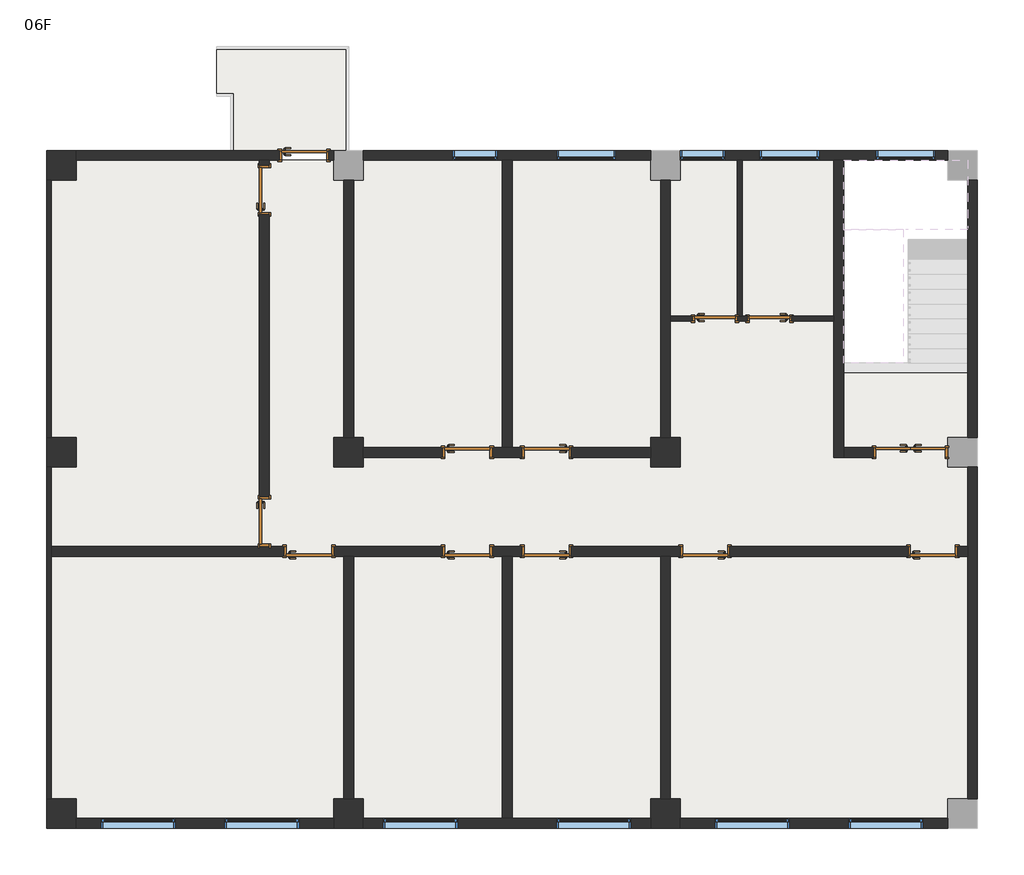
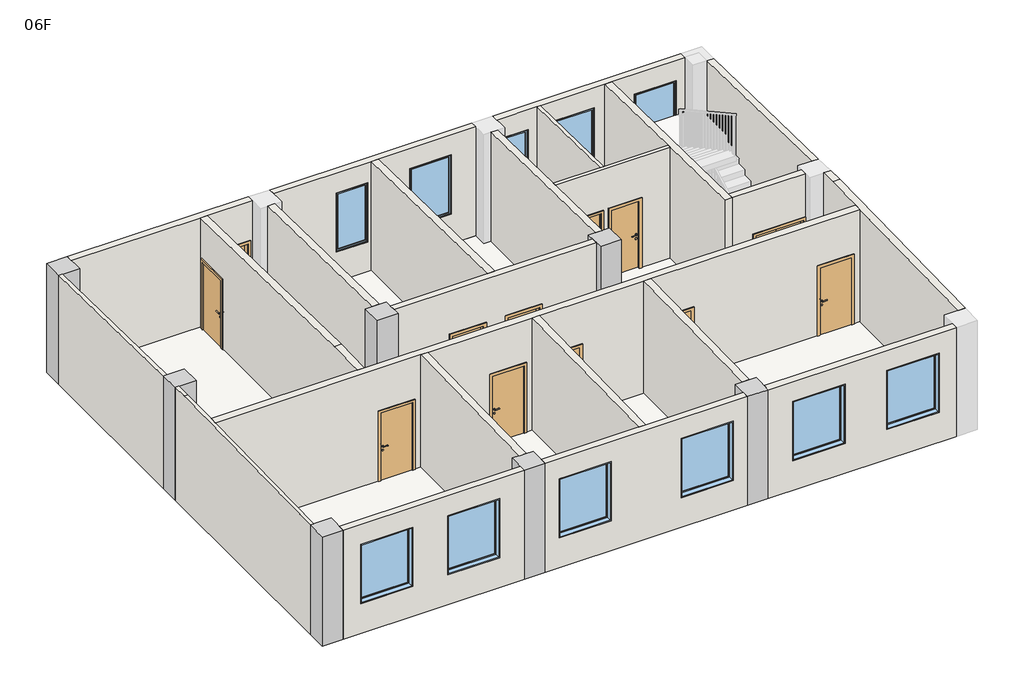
# One storey, part 1 of 2: 23 walls, 13 doors, 11 windows, 7 columns, 2 slabs.
"""IFC4 building model written with IfcOpenShell, lengths in millimetres."""

from ifc_helpers import new_model, si_unit, frame, origin, place, context, project, spatial, polyline, outline, extrude, faceted_brep, transform, mapped, element, save
from components import m2_692f9d9b, m3_ab7da2a0, m3_c9bb6752, m4_a67fd2dd, m4_12d08f6f, c2_16925ed6, c4_3407baf4, c6_982aaf11

model = new_model("IFC4")

# Units and contexts
model_context = context("Model", 3, world=origin())
ifc_project = project(units=[si_unit("LENGTHUNIT", "METRE", prefix="MILLI")], contexts=[model_context])

# Site, building, storey
site = spatial("IfcSite", under=ifc_project)
building = spatial("IfcBuilding", under=site)
storey = spatial("IfcBuildingStorey", under=building, Name="06F", Elevation=17100.0)

# Columns
placement = place(None, origin())
element("IfcColumn", 1, ObjectType="混凝土 - 矩形 - 柱 : 600 x 600mm", at=placement, inside=storey, context=model_context, shape_type="SweptSolid", body=[
    extrude(outline(polyline([(13600.0, 17100.0), (13000.0, 17100.0), (13000.0, 20411.980002), (13600.0, 20399.980002), (13600.0, 17100.0)])), frame((-100.0, 0.0, 0.0), z_axis=(1.0, 0.0, 0.0), x_axis=(0.0, 1.0, 0.0)), (0.0, 0.0, 1.0), 600.0),
])
element("IfcColumn", 2, ObjectType="混凝土 - 矩形 - 柱 : 600 x 600mm", at=placement, inside=storey, context=model_context, shape_type="SweptSolid", body=[
    extrude(outline(polyline([(7800.0, 17100.0), (7200.0, 17100.0), (7200.0, 20527.980002), (7800.0, 20515.980002), (7800.0, 17100.0)])), frame((-100.0, 0.0, 0.0), z_axis=(1.0, 0.0, 0.0), x_axis=(0.0, 1.0, 0.0)), (0.0, 0.0, 1.0), 600.0),
])
element("IfcColumn", 3, ObjectType="混凝土 - 矩形 - 柱 : 600 x 600mm", at=placement, inside=storey, context=model_context, shape_type="SweptSolid", body=[
    extrude(outline(polyline([(7800.0, 17100.0), (7200.0, 17100.0), (7200.0, 20527.980002), (7800.0, 20515.980002), (7800.0, 17100.0)])), frame((5700.0, 0.0, 0.0), z_axis=(1.0, 0.0, 0.0), x_axis=(0.0, 1.0, 0.0)), (0.0, 0.0, 1.0), 600.0),
])
element("IfcColumn", 4, ObjectType="混凝土 - 矩形 - 柱 : 600 x 600mm", at=placement, inside=storey, context=model_context, shape_type="SweptSolid", body=[
    extrude(outline(polyline([(7800.0, 17100.0), (7200.0, 17100.0), (7200.0, 20527.980002), (7800.0, 20515.980002), (7800.0, 17100.0)])), frame((12100.0, 0.0, 0.0), z_axis=(1.0, 0.0, 0.0), x_axis=(0.0, 1.0, 0.0)), (0.0, 0.0, 1.0), 600.0),
])
element("IfcColumn", 5, ObjectType="混凝土 - 矩形 - 柱 : 600 x 600mm", at=placement, inside=storey, context=model_context, shape_type="SweptSolid", body=[
    extrude(outline(polyline([(500.0, 17100.0), (-100.0, 17100.0), (-100.0, 20399.980002), (500.0, 20411.980002), (500.0, 17100.0)])), frame((-100.0, 0.0, 0.0), z_axis=(1.0, 0.0, 0.0), x_axis=(0.0, 1.0, 0.0)), (0.0, 0.0, 1.0), 600.0),
])
element("IfcColumn", 6, ObjectType="混凝土 - 矩形 - 柱 : 600 x 600mm", at=placement, inside=storey, context=model_context, shape_type="SweptSolid", body=[
    extrude(outline(polyline([(500.0, 17100.0), (-100.0, 17100.0), (-100.0, 20399.980002), (500.0, 20411.980002), (500.0, 17100.0)])), frame((5700.0, 0.0, 0.0), z_axis=(1.0, 0.0, 0.0), x_axis=(0.0, 1.0, 0.0)), (0.0, 0.0, 1.0), 600.0),
])
element("IfcColumn", 7, ObjectType="混凝土 - 矩形 - 柱 : 600 x 600mm", at=placement, inside=storey, context=model_context, shape_type="SweptSolid", body=[
    extrude(outline(polyline([(500.0, 17100.0), (-100.0, 17100.0), (-100.0, 20399.980002), (500.0, 20411.980002), (500.0, 17100.0)])), frame((12100.0, 0.0, 0.0), z_axis=(1.0, 0.0, 0.0), x_axis=(0.0, 1.0, 0.0)), (0.0, 0.0, 1.0), 600.0),
])

# Doors
m2_shape = m2_692f9d9b(model_context)
element("IfcDoor", 8, ObjectType="双面嵌板木门 1 : M2", at=placement, inside=storey, context=model_context, shape_type="MappedRepresentation", body=[
    mapped(m2_shape, transform((17350.0, 7500.0, 17100.0), x_axis=(1.0, 0.0, 0.0), y_axis=(0.0, 1.0, 0.0), z_axis=(0.0, 0.0, 1.0))),
])
m3_shape = m3_ab7da2a0(model_context)
element("IfcDoor", 9, ObjectType="单嵌板木门 1 : M3", at=placement, inside=storey, context=model_context, shape_type="MappedRepresentation", body=[
    mapped(m3_shape, transform((17800.0, 5500.0, 17100.0), x_axis=(1.0, 0.0, 0.0), y_axis=(0.0, 1.0, 0.0), z_axis=(0.0, 0.0, 1.0))),
])
element("IfcDoor", 10, ObjectType="单嵌板木门 1 : M3", at=placement, inside=storey, context=model_context, shape_type="MappedRepresentation", body=[
    mapped(m3_shape, transform((8400.0, 5500.0, 17100.0), x_axis=(1.0, 0.0, 0.0), y_axis=(0.0, 1.0, 0.0), z_axis=(0.0, 0.0, 1.0))),
])
element("IfcDoor", 11, ObjectType="单嵌板木门 1 : M3", at=placement, inside=storey, context=model_context, shape_type="MappedRepresentation", body=[
    mapped(m3_shape, transform((4300.0, 6100.0, 17100.0), x_axis=(0.0, -1.0, 0.0), y_axis=(1.0, 0.0, 0.0), z_axis=(0.0, 0.0, 1.0))),
])
element("IfcDoor", 12, ObjectType="单嵌板木门 1 : M3", at=placement, inside=storey, context=model_context, shape_type="MappedRepresentation", body=[
    mapped(m3_shape, transform((5200.0, 5500.0, 17100.0), x_axis=(1.0, 0.0, 0.0), y_axis=(0.0, 1.0, 0.0), z_axis=(0.0, 0.0, 1.0))),
])
element("IfcDoor", 13, ObjectType="单嵌板木门 1 : M3", at=placement, inside=storey, context=model_context, shape_type="MappedRepresentation", body=[
    mapped(m3_shape, transform((10000.0, 7500.0, 17100.0), x_axis=(-1.0, 0.0, 0.0), y_axis=(0.0, -1.0, 0.0), z_axis=(0.0, 0.0, 1.0))),
])
m3_2_shape = m3_c9bb6752(model_context)
element("IfcDoor", 14, ObjectType="单嵌板木门 1 : M3", at=placement, inside=storey, context=model_context, shape_type="MappedRepresentation", body=[
    mapped(m3_2_shape, transform((13200.0, 5500.0, 17100.0), x_axis=(-1.0, 0.0, 0.0), y_axis=(0.0, -1.0, 0.0), z_axis=(0.0, 0.0, 1.0))),
])
element("IfcDoor", 15, ObjectType="单嵌板木门 1 : M3", at=placement, inside=storey, context=model_context, shape_type="MappedRepresentation", body=[
    mapped(m3_2_shape, transform((10000.0, 5500.0, 17100.0), x_axis=(-1.0, 0.0, 0.0), y_axis=(0.0, -1.0, 0.0), z_axis=(0.0, 0.0, 1.0))),
])
element("IfcDoor", 16, ObjectType="单嵌板木门 1 : M3", at=placement, inside=storey, context=model_context, shape_type="MappedRepresentation", body=[
    mapped(m3_2_shape, transform((5100.0, 13500.0, 17100.0), x_axis=(1.0, 0.0, 0.0), y_axis=(0.0, 1.0, 0.0), z_axis=(0.0, 0.0, 1.0))),
])
element("IfcDoor", 17, ObjectType="单嵌板木门 1 : M3", at=placement, inside=storey, context=model_context, shape_type="MappedRepresentation", body=[
    mapped(m3_2_shape, transform((4300.0, 12800.0, 17100.0), x_axis=(0.0, 1.0, 0.0), y_axis=(-1.0, 0.0, 0.0), z_axis=(0.0, 0.0, 1.0))),
])
element("IfcDoor", 18, ObjectType="单嵌板木门 1 : M3", at=placement, inside=storey, context=model_context, shape_type="MappedRepresentation", body=[
    mapped(m3_2_shape, transform((8400.0, 7500.0, 17100.0), x_axis=(1.0, 0.0, 0.0), y_axis=(0.0, 1.0, 0.0), z_axis=(0.0, 0.0, 1.0))),
])
m4_shape = m4_a67fd2dd(model_context)
element("IfcDoor", 19, ObjectType="单嵌板木门 1 : M4", at=placement, inside=storey, context=model_context, shape_type="MappedRepresentation", body=[
    mapped(m4_shape, transform((13400.0, 10200.0, 17100.0), x_axis=(1.0, 0.0, 0.0), y_axis=(0.0, 1.0, 0.0), z_axis=(0.0, 0.0, 1.0))),
])
m4_2_shape = m4_12d08f6f(model_context)
element("IfcDoor", 20, ObjectType="单嵌板木门 1 : M4", at=placement, inside=storey, context=model_context, shape_type="MappedRepresentation", body=[
    mapped(m4_2_shape, transform((14500.0, 10200.0, 17100.0), x_axis=(-1.0, 0.0, 0.0), y_axis=(0.0, -1.0, 0.0), z_axis=(0.0, 0.0, 1.0))),
])

# Slabs
element("IfcSlab", 21, ObjectType="100mm厚钢筋混凝土", at=placement, inside=storey, context=model_context, shape_type="SweptSolid", body=[
    extrude(outline(polyline([(15800.0, 13400.0), (15800.0, 9100.0), (18500.0, 9100.0), (18500.0, 100.0), (0.0, 100.0), (0.0, 13400.0), (15800.0, 13400.0)])), frame((0.0, 0.0, 17000.0), z_axis=(0.0, 0.0, 1.0), x_axis=(1.0, 0.0, 0.0)), (0.0, 0.0, 1.0), 100.0),
])
element("IfcSlab", 22, ObjectType="常规 - 300mm", at=placement, inside=storey, context=model_context, shape_type="SweptSolid", body=[
    extrude(outline(polyline([(6000.0, 15699.6), (6000.0, 13600.0), (3620.0, 13600.0), (3620.0, 14700.0), (3340.0, 14700.0), (3340.0, 15699.6), (6000.0, 15699.6)])), frame((0.0, 0.0, 16935.0), z_axis=(0.0, 0.0, 1.0), x_axis=(1.0, 0.0, 0.0)), (0.0, 0.0, 1.0), 165.0),
])

# Walls
element("IfcWall", 23, ObjectType="200mm厚加气混凝土砌块", at=placement, inside=storey, context=model_context, shape_type="Brep", body=[
    faceted_brep([(5700.0, 13400.0, 17100.0), (5700.0, 13400.0, 20403.980002), (4400.0, 13400.0, 20403.980002), (4200.0, 13400.0, 20403.980002), (500.0, 13400.0, 20403.980002), (500.0, 13400.0, 17100.0), (4200.0, 13400.0, 17100.0), (4400.0, 13400.0, 17100.0), (4600.0, 13400.0, 17100.0), (4600.0, 13400.0, 19200.0), (5600.0, 13400.0, 19200.0), (5600.0, 13400.0, 17100.0), (5700.0, 13600.0, 20399.980002), (5700.0, 13600.0, 17100.0), (5600.0, 13600.0, 17100.0), (5600.0, 13600.0, 19200.0), (4600.0, 13600.0, 19200.0), (4600.0, 13600.0, 17100.0), (500.0, 13600.0, 17100.0), (500.0, 13600.0, 20399.980002)], [[[0, 1, 2, 3, 4, 5, 6, 7, 8, 9, 10, 11]], [[12, 13, 14, 15, 16, 17, 18, 19]], [[13, 0, 11, 14]], [[5, 18, 17, 8, 7, 6]], [[1, 0, 13, 12]], [[5, 4, 19, 18]], [[10, 15, 14, 11]], [[15, 10, 9, 16]], [[16, 9, 8, 17]], [[4, 3, 2, 1, 12, 19]]]),
])
element("IfcWall", 24, ObjectType="200mm厚加气混凝土砌块", at=placement, inside=storey, context=model_context, shape_type="Brep", body=[
    faceted_brep([(6300.0, 13400.0, 17100.0), (9100.0, 13400.0, 17100.0), (9300.0, 13400.0, 17100.0), (12100.0, 13400.0, 17100.0), (12100.0, 13400.0, 20403.980002), (9300.0, 13400.0, 20403.980002), (9100.0, 13400.0, 20403.980002), (6300.0, 13400.0, 20403.980002), (11400.0, 13400.0, 18000.0), (10200.0, 13400.0, 18000.0), (10200.0, 13400.0, 19800.0), (11400.0, 13400.0, 19800.0), (9000.0, 13400.0, 18000.0), (8100.0, 13400.0, 18000.0), (8100.0, 13400.0, 19800.0), (9000.0, 13400.0, 19800.0), (6300.0, 13600.0, 17100.0), (6300.0, 13600.0, 20399.980002), (12100.0, 13600.0, 20399.980002), (12100.0, 13600.0, 17100.0), (11400.0, 13600.0, 18000.0), (11400.0, 13600.0, 19800.0), (10200.0, 13600.0, 19800.0), (10200.0, 13600.0, 18000.0), (9000.0, 13600.0, 18000.0), (9000.0, 13600.0, 19800.0), (8100.0, 13600.0, 19800.0), (8100.0, 13600.0, 18000.0)], [[[0, 1, 2, 3, 4, 5, 6, 7], [8, 9, 10, 11], [12, 13, 14, 15]], [[16, 17, 18, 19], [20, 21, 22, 23], [24, 25, 26, 27]], [[3, 2, 1, 0, 16, 19]], [[4, 3, 19, 18]], [[0, 7, 17, 16]], [[21, 20, 8, 11]], [[22, 21, 11, 10]], [[23, 22, 10, 9]], [[20, 23, 9, 8]], [[25, 24, 12, 15]], [[26, 25, 15, 14]], [[27, 26, 14, 13]], [[24, 27, 13, 12]], [[7, 6, 5, 4, 18, 17]]]),
])
element("IfcWall", 25, ObjectType="200mm厚加气混凝土砌块", at=placement, inside=storey, context=model_context, shape_type="Brep", body=[
    faceted_brep([(13600.0, 13400.0, 18000.0), (12700.0, 13400.0, 18000.0), (12700.0, 13400.0, 17100.0), (13850.0, 13400.0, 17100.0), (13950.0, 13400.0, 17100.0), (15800.0, 13400.0, 17100.0), (16000.0, 13400.0, 17100.0), (18100.0, 13400.0, 17100.0), (18100.0, 13400.0, 20403.980002), (16000.0, 13400.0, 20403.980002), (15800.0, 13400.0, 20403.980002), (13950.0, 13400.0, 20403.980002), (13850.0, 13400.0, 20403.980002), (12700.0, 13400.0, 20403.980002), (12700.0, 13400.0, 19800.0), (13600.0, 13400.0, 19800.0), (17850.0, 13400.0, 18000.0), (16650.0, 13400.0, 18000.0), (16650.0, 13400.0, 19800.0), (17850.0, 13400.0, 19800.0), (15500.0, 13400.0, 18000.0), (14300.0, 13400.0, 18000.0), (14300.0, 13400.0, 19800.0), (15500.0, 13400.0, 19800.0), (12700.0, 13600.0, 17100.0), (12700.0, 13600.0, 18000.0), (13600.0, 13600.0, 18000.0), (13600.0, 13600.0, 19800.0), (12700.0, 13600.0, 19800.0), (12700.0, 13600.0, 20399.980002), (18100.0, 13600.0, 20399.980002), (18100.0, 13600.0, 17100.0), (17850.0, 13600.0, 18000.0), (17850.0, 13600.0, 19800.0), (16650.0, 13600.0, 19800.0), (16650.0, 13600.0, 18000.0), (15500.0, 13600.0, 18000.0), (15500.0, 13600.0, 19800.0), (14300.0, 13600.0, 19800.0), (14300.0, 13600.0, 18000.0)], [[[0, 1, 2, 3, 4, 5, 6, 7, 8, 9, 10, 11, 12, 13, 14, 15], [16, 17, 18, 19], [20, 21, 22, 23]], [[24, 25, 26, 27, 28, 29, 30, 31], [32, 33, 34, 35], [36, 37, 38, 39]], [[7, 6, 5, 4, 3, 2, 24, 31]], [[8, 7, 31, 30]], [[14, 13, 29, 28]], [[2, 1, 25, 24]], [[33, 32, 16, 19]], [[34, 33, 19, 18]], [[35, 34, 18, 17]], [[32, 35, 17, 16]], [[37, 36, 20, 23]], [[38, 37, 23, 22]], [[39, 38, 22, 21]], [[36, 39, 21, 20]], [[27, 26, 0, 15]], [[28, 27, 15, 14]], [[26, 25, 1, 0]], [[13, 12, 11, 10, 9, 8, 30, 29]]]),
])
element("IfcWall", 26, ObjectType="200mm厚加气混凝土砌块", at=placement, inside=storey, context=model_context, shape_type="SweptSolid", body=[
    extrude(outline(polyline([(13000.0, 17100.0), (7800.0, 17100.0), (7800.0, 20515.980002), (13000.0, 20411.980002), (13000.0, 17100.0)])), frame((18500.0, 0.0, 0.0), z_axis=(1.0, 0.0, 0.0), x_axis=(0.0, 1.0, 0.0)), (0.0, 0.0, 1.0), 200.0),
])
element("IfcWall", 27, ObjectType="200mm厚加气混凝土砌块", at=placement, inside=storey, context=model_context, shape_type="Brep", body=[
    faceted_brep([(18500.0, 7200.0, 17100.0), (18500.0, 5600.0, 17100.0), (18500.0, 5400.0, 17100.0), (18500.0, 500.0, 17100.0), (18500.0, 500.0, 20411.980002), (18500.0, 5400.0, 20509.980002), (18500.0, 5600.0, 20513.980002), (18500.0, 6750.0, 20536.980002), (18500.0, 7200.0, 20527.980002), (18700.0, 7200.0, 17100.0), (18700.0, 7200.0, 20527.980002), (18700.0, 6750.0, 20536.980002), (18700.0, 500.0, 20411.980002), (18700.0, 500.0, 17100.0)], [[[0, 1, 2, 3, 4, 5, 6, 7, 8]], [[9, 10, 11, 12, 13]], [[3, 2, 1, 0, 9, 13]], [[4, 3, 13, 12]], [[0, 8, 10, 9]], [[8, 7, 11, 10]], [[7, 6, 5, 4, 12, 11]]]),
])
element("IfcWall", 28, ObjectType="200mm厚加气混凝土砌块", at=placement, inside=storey, context=model_context, shape_type="Brep", body=[
    faceted_brep([(18100.0, 100.0, 17100.0), (12700.0, 100.0, 17100.0), (12700.0, 100.0, 20403.980002), (18100.0, 100.0, 20403.980002), (16100.0, 100.0, 18000.0), (17600.0, 100.0, 18000.0), (17600.0, 100.0, 19800.0), (16100.0, 100.0, 19800.0), (13400.0, 100.0, 18000.0), (14900.0, 100.0, 18000.0), (14900.0, 100.0, 19800.0), (13400.0, 100.0, 19800.0), (18100.0, -100.0, 17100.0), (18100.0, -100.0, 20399.980002), (12700.0, -100.0, 20399.980002), (12700.0, -100.0, 17100.0), (16100.0, -100.0, 18000.0), (16100.0, -100.0, 19800.0), (17600.0, -100.0, 19800.0), (17600.0, -100.0, 18000.0), (13400.0, -100.0, 18000.0), (13400.0, -100.0, 19800.0), (14900.0, -100.0, 19800.0), (14900.0, -100.0, 18000.0)], [[[0, 1, 2, 3], [4, 5, 6, 7], [8, 9, 10, 11]], [[12, 13, 14, 15], [16, 17, 18, 19], [20, 21, 22, 23]], [[1, 0, 12, 15]], [[2, 1, 15, 14]], [[0, 3, 13, 12]], [[17, 16, 4, 7]], [[18, 17, 7, 6]], [[19, 18, 6, 5]], [[16, 19, 5, 4]], [[21, 20, 8, 11]], [[22, 21, 11, 10]], [[23, 22, 10, 9]], [[20, 23, 9, 8]], [[3, 2, 14, 13]]]),
])
element("IfcWall", 29, ObjectType="200mm厚加气混凝土砌块", at=placement, inside=storey, context=model_context, shape_type="Brep", body=[
    faceted_brep([(12100.0, 100.0, 17100.0), (9300.0, 100.0, 17100.0), (9100.0, 100.0, 17100.0), (6300.0, 100.0, 17100.0), (6300.0, 100.0, 20403.980002), (9100.0, 100.0, 20403.980002), (9300.0, 100.0, 20403.980002), (12100.0, 100.0, 20403.980002), (6700.0, 100.0, 18000.0), (8200.0, 100.0, 18000.0), (8200.0, 100.0, 19800.0), (6700.0, 100.0, 19800.0), (10200.0, 100.0, 18000.0), (11700.0, 100.0, 18000.0), (11700.0, 100.0, 19800.0), (10200.0, 100.0, 19800.0), (12100.0, -100.0, 17100.0), (12100.0, -100.0, 20399.980002), (6300.0, -100.0, 20399.980002), (6300.0, -100.0, 17100.0), (6700.0, -100.0, 18000.0), (6700.0, -100.0, 19800.0), (8200.0, -100.0, 19800.0), (8200.0, -100.0, 18000.0), (10200.0, -100.0, 18000.0), (10200.0, -100.0, 19800.0), (11700.0, -100.0, 19800.0), (11700.0, -100.0, 18000.0)], [[[0, 1, 2, 3, 4, 5, 6, 7], [8, 9, 10, 11], [12, 13, 14, 15]], [[16, 17, 18, 19], [20, 21, 22, 23], [24, 25, 26, 27]], [[3, 2, 1, 0, 16, 19]], [[4, 3, 19, 18]], [[0, 7, 17, 16]], [[21, 20, 8, 11]], [[22, 21, 11, 10]], [[23, 22, 10, 9]], [[20, 23, 9, 8]], [[25, 24, 12, 15]], [[26, 25, 15, 14]], [[27, 26, 14, 13]], [[24, 27, 13, 12]], [[7, 6, 5, 4, 18, 17]]]),
])
element("IfcWall", 30, ObjectType="200mm厚加气混凝土砌块", at=placement, inside=storey, context=model_context, shape_type="Brep", body=[
    faceted_brep([(5700.0, 100.0, 17100.0), (500.0, 100.0, 17100.0), (500.0, 100.0, 20403.980002), (5700.0, 100.0, 20403.980002), (1000.0, 100.0, 18000.0), (2500.0, 100.0, 18000.0), (2500.0, 100.0, 19800.0), (1000.0, 100.0, 19800.0), (3500.0, 100.0, 18000.0), (5000.0, 100.0, 18000.0), (5000.0, 100.0, 19800.0), (3500.0, 100.0, 19800.0), (5700.0, -100.0, 17100.0), (5700.0, -100.0, 20399.980002), (500.0, -100.0, 20399.980002), (500.0, -100.0, 17100.0), (1000.0, -100.0, 18000.0), (1000.0, -100.0, 19800.0), (2500.0, -100.0, 19800.0), (2500.0, -100.0, 18000.0), (3500.0, -100.0, 18000.0), (3500.0, -100.0, 19800.0), (5000.0, -100.0, 19800.0), (5000.0, -100.0, 18000.0)], [[[0, 1, 2, 3], [4, 5, 6, 7], [8, 9, 10, 11]], [[12, 13, 14, 15], [16, 17, 18, 19], [20, 21, 22, 23]], [[1, 0, 12, 15]], [[2, 1, 15, 14]], [[0, 3, 13, 12]], [[17, 16, 4, 7]], [[18, 17, 7, 6]], [[19, 18, 6, 5]], [[16, 19, 5, 4]], [[21, 20, 8, 11]], [[22, 21, 11, 10]], [[23, 22, 10, 9]], [[20, 23, 9, 8]], [[3, 2, 14, 13]]]),
])
element("IfcWall", 31, ObjectType="100mm厚加气混凝土砌块", at=placement, inside=storey, context=model_context, shape_type="Brep", body=[
    faceted_brep([(0.0, 500.0, 17100.0), (0.0, 5400.0, 17100.0), (0.0, 5600.0, 17100.0), (0.0, 7200.0, 17100.0), (0.0, 7200.0, 20527.980002), (0.0, 6750.0, 20536.980002), (0.0, 5600.0, 20513.980002), (0.0, 5400.0, 20509.980002), (0.0, 500.0, 20411.980002), (-100.0, 500.0, 17100.0), (-100.0, 500.0, 20411.980002), (-100.0, 6750.0, 20536.980002), (-100.0, 7200.0, 20527.980002), (-100.0, 7200.0, 17100.0)], [[[0, 1, 2, 3, 4, 5, 6, 7, 8]], [[9, 10, 11, 12, 13]], [[3, 2, 1, 0, 9, 13]], [[4, 3, 13, 12]], [[0, 8, 10, 9]], [[8, 7, 6, 5, 11, 10]], [[5, 4, 12, 11]]]),
])
element("IfcWall", 32, ObjectType="100mm厚加气混凝土砌块", at=placement, inside=storey, context=model_context, shape_type="SweptSolid", body=[
    extrude(outline(polyline([(7800.0, 17100.0), (7800.0, 20515.980002), (13000.0, 20411.980002), (13000.0, 17100.0), (7800.0, 17100.0)])), frame((-100.0, 0.0, 0.0), z_axis=(1.0, 0.0, 0.0), x_axis=(0.0, 1.0, 0.0)), (0.0, 0.0, 1.0), 100.0),
])
element("IfcWall", 33, ObjectType="200mm厚加气混凝土砌块", at=placement, inside=storey, context=model_context, shape_type="SweptSolid", body=[
    extrude(outline(polyline([(13000.0, 17100.0), (7800.0, 17100.0), (7800.0, 20515.980002), (13000.0, 20411.980002), (13000.0, 17100.0)])), frame((5900.0, 0.0, 0.0), z_axis=(1.0, 0.0, 0.0), x_axis=(0.0, 1.0, 0.0)), (0.0, 0.0, 1.0), 200.0),
])
element("IfcWall", 34, ObjectType="200mm厚加气混凝土砌块", at=placement, inside=storey, context=model_context, shape_type="SweptSolid", body=[
    extrude(outline(polyline([(5400.0, 17100.0), (500.0, 17100.0), (500.0, 20411.980002), (5400.0, 20509.980002), (5400.0, 17100.0)])), frame((5900.0, 0.0, 0.0), z_axis=(1.0, 0.0, 0.0), x_axis=(0.0, 1.0, 0.0)), (0.0, 0.0, 1.0), 200.0),
])
element("IfcWall", 35, ObjectType="200mm厚加气混凝土砌块", at=placement, inside=storey, context=model_context, shape_type="Brep", body=[
    faceted_brep([(18500.0, 5400.0, 17100.0), (18500.0, 5400.0, 20509.980002), (12500.0, 5400.0, 20509.980002), (12300.0, 5400.0, 20509.980002), (9300.0, 5400.0, 20509.980002), (9100.0, 5400.0, 20509.980002), (6100.0, 5400.0, 20509.980002), (5900.0, 5400.0, 20509.980002), (0.0, 5400.0, 20509.980002), (0.0, 5400.0, 17100.0), (4700.0, 5400.0, 17100.0), (4700.0, 5400.0, 19200.0), (5700.0, 5400.0, 19200.0), (5700.0, 5400.0, 17100.0), (5900.0, 5400.0, 17100.0), (6100.0, 5400.0, 17100.0), (7900.0, 5400.0, 17100.0), (7900.0, 5400.0, 19200.0), (8900.0, 5400.0, 19200.0), (8900.0, 5400.0, 17100.0), (9100.0, 5400.0, 17100.0), (9300.0, 5400.0, 17100.0), (9500.0, 5400.0, 17100.0), (9500.0, 5400.0, 19200.0), (10500.0, 5400.0, 19200.0), (10500.0, 5400.0, 17100.0), (12300.0, 5400.0, 17100.0), (12500.0, 5400.0, 17100.0), (12700.0, 5400.0, 17100.0), (12700.0, 5400.0, 19200.0), (13700.0, 5400.0, 19200.0), (13700.0, 5400.0, 17100.0), (17300.0, 5400.0, 17100.0), (17300.0, 5400.0, 19200.0), (18300.0, 5400.0, 19200.0), (18300.0, 5400.0, 17100.0), (18500.0, 5600.0, 20513.980002), (18500.0, 5600.0, 17100.0), (18300.0, 5600.0, 17100.0), (18300.0, 5600.0, 19200.0), (17300.0, 5600.0, 19200.0), (17300.0, 5600.0, 17100.0), (13700.0, 5600.0, 17100.0), (13700.0, 5600.0, 19200.0), (12700.0, 5600.0, 19200.0), (12700.0, 5600.0, 17100.0), (10500.0, 5600.0, 17100.0), (10500.0, 5600.0, 19200.0), (9500.0, 5600.0, 19200.0), (9500.0, 5600.0, 17100.0), (8900.0, 5600.0, 17100.0), (8900.0, 5600.0, 19200.0), (7900.0, 5600.0, 19200.0), (7900.0, 5600.0, 17100.0), (5700.0, 5600.0, 17100.0), (5700.0, 5600.0, 19200.0), (4700.0, 5600.0, 19200.0), (4700.0, 5600.0, 17100.0), (4400.0, 5600.0, 17100.0), (4200.0, 5600.0, 17100.0), (0.0, 5600.0, 17100.0), (0.0, 5600.0, 20513.980002), (4200.0, 5600.0, 20513.980002), (4400.0, 5600.0, 20513.980002)], [[[0, 1, 2, 3, 4, 5, 6, 7, 8, 9, 10, 11, 12, 13, 14, 15, 16, 17, 18, 19, 20, 21, 22, 23, 24, 25, 26, 27, 28, 29, 30, 31, 32, 33, 34, 35]], [[36, 37, 38, 39, 40, 41, 42, 43, 44, 45, 46, 47, 48, 49, 50, 51, 52, 53, 54, 55, 56, 57, 58, 59, 60, 61, 62, 63]], [[37, 0, 35, 38]], [[9, 60, 59, 58, 57, 10]], [[13, 54, 53, 16, 15, 14]], [[19, 50, 49, 22, 21, 20]], [[25, 46, 45, 28, 27, 26]], [[41, 32, 31, 42]], [[1, 0, 37, 36]], [[9, 8, 61, 60]], [[12, 55, 54, 13]], [[55, 12, 11, 56]], [[56, 11, 10, 57]], [[18, 51, 50, 19]], [[51, 18, 17, 52]], [[52, 17, 16, 53]], [[48, 23, 22, 49]], [[23, 48, 47, 24]], [[24, 47, 46, 25]], [[34, 39, 38, 35]], [[39, 34, 33, 40]], [[40, 33, 32, 41]], [[44, 29, 28, 45]], [[29, 44, 43, 30]], [[30, 43, 42, 31]], [[8, 7, 6, 5, 4, 3, 2, 1, 36, 63, 62, 61]]]),
])
element("IfcWall", 36, ObjectType="200mm厚加气混凝土砌块", at=placement, inside=storey, context=model_context, shape_type="SweptSolid", body=[
    extrude(outline(polyline([(5400.0, 17100.0), (500.0, 17100.0), (500.0, 20411.980002), (5400.0, 20509.980002), (5400.0, 17100.0)])), frame((12300.0, 0.0, 0.0), z_axis=(1.0, 0.0, 0.0), x_axis=(0.0, 1.0, 0.0)), (0.0, 0.0, 1.0), 200.0),
])
element("IfcWall", 37, ObjectType="200mm厚加气混凝土砌块", at=placement, inside=storey, context=model_context, shape_type="Brep", body=[
    faceted_brep([(12300.0, 13000.0, 17100.0), (12300.0, 7800.0, 17100.0), (12300.0, 7800.0, 20515.980002), (12300.0, 13000.0, 20411.980002), (12500.0, 13000.0, 17100.0), (12500.0, 13000.0, 20411.980002), (12500.0, 10250.0, 20466.980002), (12500.0, 10150.0, 20468.980002), (12500.0, 7800.0, 20515.980002), (12500.0, 7800.0, 17100.0), (12500.0, 10150.0, 17100.0), (12500.0, 10250.0, 17100.0)], [[[0, 1, 2, 3]], [[4, 5, 6, 7, 8, 9, 10, 11]], [[1, 0, 4, 11, 10, 9]], [[2, 1, 9, 8]], [[0, 3, 5, 4]], [[3, 2, 8, 7, 6, 5]]]),
])
element("IfcWall", 38, ObjectType="200mm厚加气混凝土砌块", at=placement, inside=storey, context=model_context, shape_type="Brep", body=[
    faceted_brep([(15800.0, 13400.0, 17100.0), (15800.0, 10250.0, 17100.0), (15800.0, 10150.0, 17100.0), (15800.0, 7400.0, 17100.0), (15800.0, 7400.0, 20523.980002), (15800.0, 10150.0, 20468.980002), (15800.0, 10250.0, 20466.980002), (15800.0, 13400.0, 20403.980002), (16000.0, 13400.0, 17100.0), (16000.0, 13400.0, 20403.980002), (16000.0, 7600.0, 20519.980002), (16000.0, 7400.0, 20523.980002), (16000.0, 7400.0, 17100.0), (16000.0, 7600.0, 17100.0)], [[[0, 1, 2, 3, 4, 5, 6, 7]], [[8, 9, 10, 11, 12, 13]], [[3, 2, 1, 0, 8, 13, 12]], [[0, 7, 9, 8]], [[4, 3, 12, 11]], [[7, 6, 5, 4, 11, 10, 9]]]),
])
element("IfcWall", 39, ObjectType="200mm厚加气混凝土砌块", at=placement, inside=storey, context=model_context, shape_type="Brep", body=[
    faceted_brep([(16000.0, 7400.0, 20523.980002), (16000.0, 7400.0, 17100.0), (16600.0, 7400.0, 17100.0), (16600.0, 7400.0, 19200.0), (18100.0, 7400.0, 19200.0), (18100.0, 7400.0, 20523.980002), (16000.0, 7600.0, 17100.0), (16000.0, 7600.0, 20519.980002), (18100.0, 7600.0, 20519.980002), (18100.0, 7600.0, 19200.0), (16600.0, 7600.0, 19200.0), (16600.0, 7600.0, 17100.0)], [[[0, 1, 2, 3, 4, 5]], [[6, 7, 8, 9, 10, 11]], [[1, 6, 11, 2]], [[8, 5, 4, 9]], [[1, 0, 7, 6]], [[3, 10, 9, 4]], [[10, 3, 2, 11]], [[0, 5, 8, 7]]]),
])
element("IfcWall", 40, ObjectType="100mm厚加气混凝土砌块", at=placement, inside=storey, context=model_context, shape_type="Brep", body=[
    faceted_brep([(12500.0, 10150.0, 20468.980002), (12500.0, 10150.0, 17100.0), (12950.0, 10150.0, 17100.0), (12950.0, 10150.0, 19200.0), (13850.0, 10150.0, 19200.0), (13850.0, 10150.0, 17100.0), (14050.0, 10150.0, 17100.0), (14050.0, 10150.0, 19200.0), (14950.0, 10150.0, 19200.0), (14950.0, 10150.0, 17100.0), (15800.0, 10150.0, 17100.0), (15800.0, 10150.0, 20468.980002), (12500.0, 10250.0, 17100.0), (12500.0, 10250.0, 20466.980002), (13850.0, 10250.0, 20466.980002), (13950.0, 10250.0, 20466.980002), (15800.0, 10250.0, 20466.980002), (15800.0, 10250.0, 17100.0), (14950.0, 10250.0, 17100.0), (14950.0, 10250.0, 19200.0), (14050.0, 10250.0, 19200.0), (14050.0, 10250.0, 17100.0), (13950.0, 10250.0, 17100.0), (13850.0, 10250.0, 17100.0), (13850.0, 10250.0, 19200.0), (12950.0, 10250.0, 19200.0), (12950.0, 10250.0, 17100.0)], [[[0, 1, 2, 3, 4, 5, 6, 7, 8, 9, 10, 11]], [[12, 13, 14, 15, 16, 17, 18, 19, 20, 21, 22, 23, 24, 25, 26]], [[1, 12, 26, 2]], [[17, 10, 9, 18]], [[21, 6, 5, 23, 22]], [[1, 0, 13, 12]], [[11, 10, 17, 16]], [[20, 7, 6, 21]], [[7, 20, 19, 8]], [[8, 19, 18, 9]], [[4, 24, 23, 5]], [[24, 4, 3, 25]], [[25, 3, 2, 26]], [[0, 11, 16, 15, 14, 13]]]),
])
element("IfcWall", 41, ObjectType="100mm厚加气混凝土砌块", at=placement, inside=storey, context=model_context, shape_type="Brep", body=[
    faceted_brep([(13850.0, 13400.0, 17100.0), (13850.0, 10250.0, 17100.0), (13850.0, 10250.0, 19200.0), (13850.0, 10250.0, 20466.980002), (13850.0, 13400.0, 20403.980002), (13950.0, 13400.0, 17100.0), (13950.0, 13400.0, 20403.980002), (13950.0, 10250.0, 20466.980002), (13950.0, 10250.0, 17100.0)], [[[0, 1, 2, 3, 4]], [[5, 6, 7, 8]], [[1, 0, 5, 8]], [[0, 4, 6, 5]], [[3, 2, 1, 8, 7]], [[4, 3, 7, 6]]]),
])
element("IfcWall", 42, ObjectType="200mm厚加气混凝土砌块", at=placement, inside=storey, context=model_context, shape_type="SweptSolid", body=[
    extrude(outline(polyline([(13400.0, 20403.980002), (13400.0, 17100.0), (13300.0, 17100.0), (13300.0, 19200.0), (12300.0, 19200.0), (12300.0, 17100.0), (6600.0, 17100.0), (6600.0, 19200.0), (5600.0, 19200.0), (5600.0, 20513.980002), (6750.0, 20536.980002), (13400.0, 20403.980002)])), frame((4200.0, 0.0, 0.0), z_axis=(1.0, 0.0, 0.0), x_axis=(0.0, 1.0, 0.0)), (0.0, 0.0, 1.0), 200.0),
])
element("IfcWall", 43, ObjectType="200mm厚加气混凝土砌块", at=placement, inside=storey, context=model_context, shape_type="SweptSolid", body=[
    extrude(outline(polyline([(5400.0, 17100.0), (100.0, 17100.0), (100.0, 20403.980002), (5400.0, 20509.980002), (5400.0, 17100.0)])), frame((9100.0, 0.0, 0.0), z_axis=(1.0, 0.0, 0.0), x_axis=(0.0, 1.0, 0.0)), (0.0, 0.0, 1.0), 200.0),
])
element("IfcWall", 44, ObjectType="200mm厚加气混凝土砌块", at=placement, inside=storey, context=model_context, shape_type="Brep", body=[
    faceted_brep([(12100.0, 7400.0, 17100.0), (12100.0, 7400.0, 20523.980002), (6300.0, 7400.0, 20523.980002), (6300.0, 7400.0, 17100.0), (7900.0, 7400.0, 17100.0), (7900.0, 7400.0, 19200.0), (8900.0, 7400.0, 19200.0), (8900.0, 7400.0, 17100.0), (9500.0, 7400.0, 17100.0), (9500.0, 7400.0, 19200.0), (10500.0, 7400.0, 19200.0), (10500.0, 7400.0, 17100.0), (12100.0, 7600.0, 20519.980002), (12100.0, 7600.0, 17100.0), (10500.0, 7600.0, 17100.0), (10500.0, 7600.0, 19200.0), (9500.0, 7600.0, 19200.0), (9500.0, 7600.0, 17100.0), (9300.0, 7600.0, 17100.0), (9100.0, 7600.0, 17100.0), (8900.0, 7600.0, 17100.0), (8900.0, 7600.0, 19200.0), (7900.0, 7600.0, 19200.0), (7900.0, 7600.0, 17100.0), (6300.0, 7600.0, 17100.0), (6300.0, 7600.0, 20519.980002), (9100.0, 7600.0, 20519.980002), (9300.0, 7600.0, 20519.980002)], [[[0, 1, 2, 3, 4, 5, 6, 7, 8, 9, 10, 11]], [[12, 13, 14, 15, 16, 17, 18, 19, 20, 21, 22, 23, 24, 25, 26, 27]], [[13, 0, 11, 14]], [[3, 24, 23, 4]], [[17, 8, 7, 20, 19, 18]], [[1, 0, 13, 12]], [[3, 2, 25, 24]], [[16, 9, 8, 17]], [[9, 16, 15, 10]], [[10, 15, 14, 11]], [[6, 21, 20, 7]], [[21, 6, 5, 22]], [[22, 5, 4, 23]], [[2, 1, 12, 27, 26, 25]]]),
])
element("IfcWall", 45, ObjectType="200mm厚加气混凝土砌块", at=placement, inside=storey, context=model_context, shape_type="SweptSolid", body=[
    extrude(outline(polyline([(7600.0, 17100.0), (7600.0, 20519.980002), (13400.0, 20403.980002), (13400.0, 17100.0), (7600.0, 17100.0)])), frame((9100.0, 0.0, 0.0), z_axis=(1.0, 0.0, 0.0), x_axis=(0.0, 1.0, 0.0)), (0.0, 0.0, 1.0), 200.0),
])

# Windows
c2_shape = c2_16925ed6(model_context)
element("IfcWindow", 46, ObjectType="固定 : C2", at=placement, inside=storey, context=model_context, shape_type="MappedRepresentation", body=[
    mapped(c2_shape, transform((10950.0, -13.0, 17100.0), x_axis=(1.0, 0.0, 0.0), y_axis=(0.0, 1.0, 0.0), z_axis=(0.0, 0.0, 1.0))),
])
element("IfcWindow", 47, ObjectType="固定 : C2", at=placement, inside=storey, context=model_context, shape_type="MappedRepresentation", body=[
    mapped(c2_shape, transform((7450.0, -13.0, 17100.0), x_axis=(1.0, 0.0, 0.0), y_axis=(0.0, 1.0, 0.0), z_axis=(0.0, 0.0, 1.0))),
])
element("IfcWindow", 48, ObjectType="固定 : C2", at=placement, inside=storey, context=model_context, shape_type="MappedRepresentation", body=[
    mapped(c2_shape, transform((4250.0, -13.0, 17100.0), x_axis=(1.0, 0.0, 0.0), y_axis=(0.0, 1.0, 0.0), z_axis=(0.0, 0.0, 1.0))),
])
element("IfcWindow", 49, ObjectType="固定 : C2", at=placement, inside=storey, context=model_context, shape_type="MappedRepresentation", body=[
    mapped(c2_shape, transform((1750.0, -13.0, 17100.0), x_axis=(1.0, 0.0, 0.0), y_axis=(0.0, 1.0, 0.0), z_axis=(0.0, 0.0, 1.0))),
])
element("IfcWindow", 50, ObjectType="固定 : C2", at=placement, inside=storey, context=model_context, shape_type="MappedRepresentation", body=[
    mapped(c2_shape, transform((14150.0, -13.0, 17100.0), x_axis=(1.0, 0.0, 0.0), y_axis=(0.0, 1.0, 0.0), z_axis=(0.0, 0.0, 1.0))),
])
element("IfcWindow", 51, ObjectType="固定 : C2", at=placement, inside=storey, context=model_context, shape_type="MappedRepresentation", body=[
    mapped(c2_shape, transform((16850.0, -13.0, 17100.0), x_axis=(1.0, 0.0, 0.0), y_axis=(0.0, 1.0, 0.0), z_axis=(0.0, 0.0, 1.0))),
])
c4_shape = c4_3407baf4(model_context)
element("IfcWindow", 52, ObjectType="固定 : C4", at=placement, inside=storey, context=model_context, shape_type="MappedRepresentation", body=[
    mapped(c4_shape, transform((14900.0, 13513.0, 17100.0), x_axis=(-1.0, 0.0, 0.0), y_axis=(0.0, -1.0, 0.0), z_axis=(0.0, 0.0, 1.0))),
])
element("IfcWindow", 53, ObjectType="固定 : C4", at=placement, inside=storey, context=model_context, shape_type="MappedRepresentation", body=[
    mapped(c4_shape, transform((17250.0, 13513.0, 17100.0), x_axis=(-1.0, 0.0, 0.0), y_axis=(0.0, -1.0, 0.0), z_axis=(0.0, 0.0, 1.0))),
])
element("IfcWindow", 54, ObjectType="固定 : C4", at=placement, inside=storey, context=model_context, shape_type="MappedRepresentation", body=[
    mapped(c4_shape, transform((10800.0, 13513.0, 17100.0), x_axis=(-1.0, 0.0, 0.0), y_axis=(0.0, -1.0, 0.0), z_axis=(0.0, 0.0, 1.0))),
])
c6_shape = c6_982aaf11(model_context)
element("IfcWindow", 55, ObjectType="固定 : C6", at=placement, inside=storey, context=model_context, shape_type="MappedRepresentation", body=[
    mapped(c6_shape, transform((8550.0, 13513.0, 17100.0), x_axis=(-1.0, 0.0, 0.0), y_axis=(0.0, -1.0, 0.0), z_axis=(0.0, 0.0, 1.0))),
])
element("IfcWindow", 56, ObjectType="固定 : C6", at=placement, inside=storey, context=model_context, shape_type="MappedRepresentation", body=[
    mapped(c6_shape, transform((13150.0, 13513.0, 17100.0), x_axis=(-1.0, 0.0, 0.0), y_axis=(0.0, -1.0, 0.0), z_axis=(0.0, 0.0, 1.0))),
])

save(model, "model.ifc")
